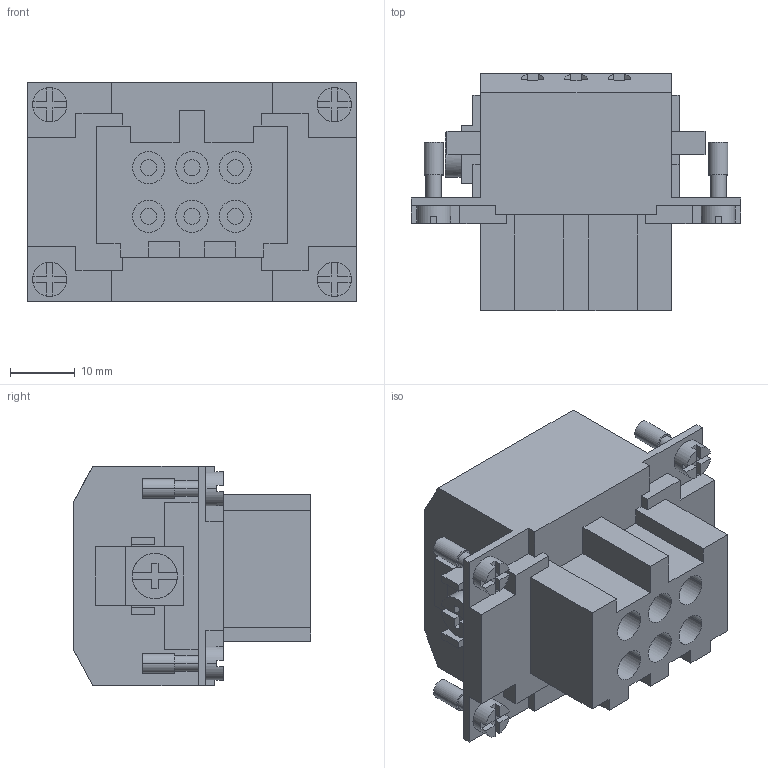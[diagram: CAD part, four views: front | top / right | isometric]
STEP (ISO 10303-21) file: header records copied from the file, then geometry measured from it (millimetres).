
FILE_DESCRIPTION (( 'STEP AP203' ), '1' );
FILE_NAME ('352251.STEP', '2025-06-26T13:31:40', ( '' ), ( '' ), 'SwSTEP 2.0', 'SolidWorks 2018', '' );
FILE_SCHEMA (( 'CONFIG_CONTROL_DESIGN' ));
Length unit declared in the file: millimetre
Products named in the file (1): 352251
Bounding box: 51 x 36.7 x 34 mm (x, y, z)
Volume: 29938.3 mm3; surface area: 11580.4 mm2
Topology: 1 solids, 1 shells, 384 faces, 996 edges, 664 vertices
Faces by surface type: plane 332, cylinder 52
Entity records: 11697 total; most frequent: CARTESIAN_POINT 2045, ORIENTED_EDGE 1992, DIRECTION 1906, EDGE_CURVE 996, LINE 856, VECTOR 856, VERTEX_POINT 664, AXIS2_PLACEMENT_3D 525
